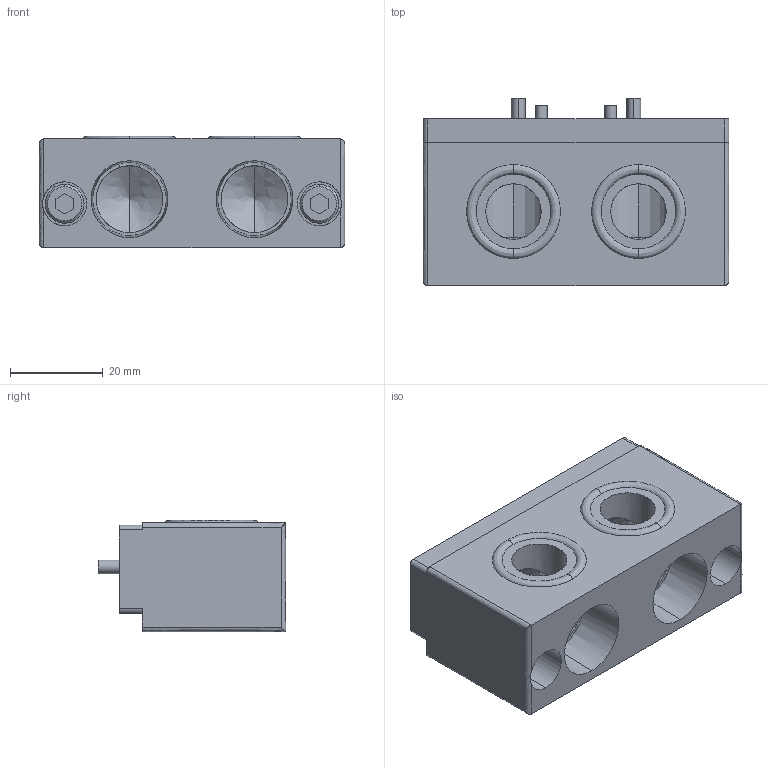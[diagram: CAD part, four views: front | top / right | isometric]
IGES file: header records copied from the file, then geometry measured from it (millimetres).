
Start section: 3D InterOp IGES (v. 2022 1.0.0), Spatial Corp. Copyright (c) 1999-2020.
Global section: file name: KHB-12~25HS-EP102_ver1.igs; native system: Spatial Corp.; preprocessor: 3D InterOp GENERIC/IGES 3.0; author: Noname; organization: Noname; date: 20260427.135842; units: millimetre
Bounding box: 66 x 40.5 x 24.1 mm (x, y, z)
Surface area: 14843.5 mm2 (no closed solid volume)
Topology: 0 solids, 0 shells, 165 faces, 758 edges, 754 vertices
Faces by surface type: revolution 89, extrusion 76
